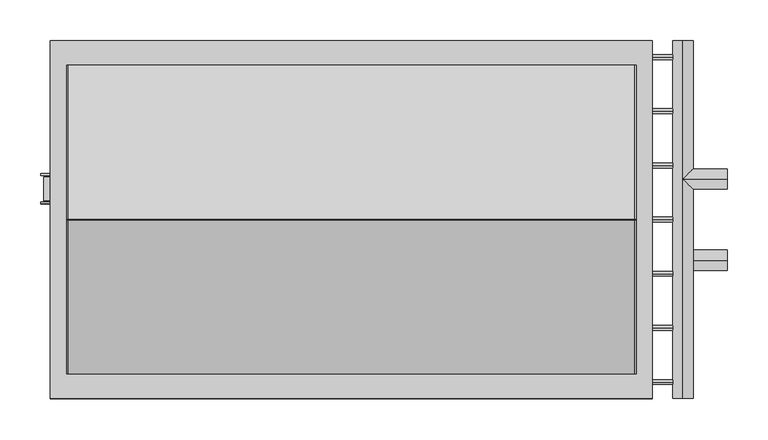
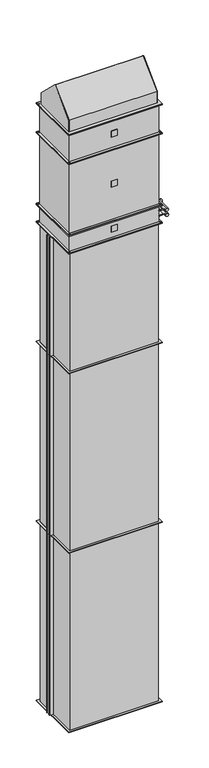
"""IFC4 building model written with IfcOpenShell, lengths in millimetres: proxy geometry, KORF_Завеса_ВодянойНагрев_PWZ_C : PWZ-C 70-40 W2 DM."""

from ifc_helpers import new_model, si_unit, point, frame, frame_2d, origin, origin_with_axes, place, context, project, spatial, polyline, circle_curve, ellipse_curve, trimmed, segment, composite_curve, outline, extrude, source, transform, mapped, element, save
from ifc_brep_helpers import plane_surface, cylinder_surface, advanced_brep


def mechanical_equipment_b2e45c71(model_context):
    return source(origin(), model_context, "Body", "SolidModel", [
        extrude(outline(polyline([(25.0, -205.0), (-25.0, -205.0), (-25.0, -203.0), (25.0, -203.0), (25.0, -205.0)])), frame((0.0, 0.0, 4050.0), z_axis=(0.0, 0.0, 1.0), x_axis=(1.0, 0.0, 0.0)), (0.0, 0.0, 1.0), 50.0),
        extrude(outline(polyline([(370.0, -220.0), (-370.0, -220.0), (-370.0, 220.0), (370.0, 220.0), (370.0, -220.0)]), holes=[polyline([(350.0, -200.0), (350.0, 200.0), (-350.0, 200.0), (-350.0, -200.0), (350.0, -200.0)]), composite_curve([segment(trimmed(circle_curve(frame_2d((-360.0, -210.0)), 4.5), [point((-355.5, -210.0))], [point((-364.5, -210.0))], True, "CARTESIAN"), True, "CONTINUOUS"), segment(trimmed(circle_curve(frame_2d((-360.0, -210.0)), 4.5), [point((-364.5, -210.0))], [point((-355.5, -210.0))], True, "CARTESIAN"), True, "CONTINUOUS")], self_intersect=False), composite_curve([segment(trimmed(circle_curve(frame_2d((360.0, -210.0)), 4.5), [point((364.5, -210.0))], [point((355.5, -210.0))], True, "CARTESIAN"), True, "CONTINUOUS"), segment(trimmed(circle_curve(frame_2d((360.0, -210.0)), 4.5), [point((355.5, -210.0))], [point((364.5, -210.0))], True, "CARTESIAN"), True, "CONTINUOUS")], self_intersect=False), composite_curve([segment(trimmed(circle_curve(frame_2d((360.0, 210.0)), 4.5), [point((364.5, 210.0))], [point((355.5, 210.0))], True, "CARTESIAN"), True, "CONTINUOUS"), segment(trimmed(circle_curve(frame_2d((360.0, 210.0)), 4.5), [point((355.5, 210.0))], [point((364.5, 210.0))], True, "CARTESIAN"), True, "CONTINUOUS")], self_intersect=False), composite_curve([segment(trimmed(circle_curve(frame_2d((-360.0, 210.0)), 4.5), [point((-355.5, 210.0))], [point((-364.5, 210.0))], True, "CARTESIAN"), True, "CONTINUOUS"), segment(trimmed(circle_curve(frame_2d((-360.0, 210.0)), 4.5), [point((-364.5, 210.0))], [point((-355.5, 210.0))], True, "CARTESIAN"), True, "CONTINUOUS")], self_intersect=False)]), frame((0.0, 0.0, 4145.0), z_axis=(0.0, 0.0, 1.0), x_axis=(1.0, 0.0, 0.0)), (0.0, 0.0, 1.0), 5.0),
        extrude(outline(polyline([(370.0, -220.0), (-370.0, -220.0), (-370.0, 220.0), (370.0, 220.0), (370.0, -220.0)]), holes=[polyline([(350.0, -200.0), (350.0, 200.0), (-350.0, 200.0), (-350.0, -200.0), (350.0, -200.0)]), composite_curve([segment(trimmed(circle_curve(frame_2d((-360.0, -210.0)), 4.5), [point((-355.5, -210.0))], [point((-364.5, -210.0))], True, "CARTESIAN"), True, "CONTINUOUS"), segment(trimmed(circle_curve(frame_2d((-360.0, -210.0)), 4.5), [point((-364.5, -210.0))], [point((-355.5, -210.0))], True, "CARTESIAN"), True, "CONTINUOUS")], self_intersect=False), composite_curve([segment(trimmed(circle_curve(frame_2d((360.0, -210.0)), 4.5), [point((364.5, -210.0))], [point((355.5, -210.0))], True, "CARTESIAN"), True, "CONTINUOUS"), segment(trimmed(circle_curve(frame_2d((360.0, -210.0)), 4.5), [point((355.5, -210.0))], [point((364.5, -210.0))], True, "CARTESIAN"), True, "CONTINUOUS")], self_intersect=False), composite_curve([segment(trimmed(circle_curve(frame_2d((360.0, 210.0)), 4.5), [point((364.5, 210.0))], [point((355.5, 210.0))], True, "CARTESIAN"), True, "CONTINUOUS"), segment(trimmed(circle_curve(frame_2d((360.0, 210.0)), 4.5), [point((355.5, 210.0))], [point((364.5, 210.0))], True, "CARTESIAN"), True, "CONTINUOUS")], self_intersect=False), composite_curve([segment(trimmed(circle_curve(frame_2d((-360.0, 210.0)), 4.5), [point((-355.5, 210.0))], [point((-364.5, 210.0))], True, "CARTESIAN"), True, "CONTINUOUS"), segment(trimmed(circle_curve(frame_2d((-360.0, 210.0)), 4.5), [point((-364.5, 210.0))], [point((-355.5, 210.0))], True, "CARTESIAN"), True, "CONTINUOUS")], self_intersect=False)]), frame((0.0, 0.0, 4000.0), z_axis=(0.0, 0.0, 1.0), x_axis=(1.0, 0.0, 0.0)), (0.0, 0.0, 1.0), 5.0),
        extrude(outline(polyline([(353.0, -203.0), (-353.0, -203.0), (-353.0, 203.0), (353.0, 203.0), (353.0, -203.0)])), frame((0.0, 0.0, 4005.0), z_axis=(0.0, 0.0, 1.0), x_axis=(1.0, 0.0, 0.0)), (0.0, 0.0, 1.0), 140.0),
        advanced_brep(
        [(462.0, -50.0, 4041.0), (462.0, -50.0, 4066.0), (407.5, -50.0, 4041.0), (407.5, -50.0, 4066.0), (407.5, -220.0, 4041.0), (407.5, -220.0, 4066.0), (407.5, 220.0, 4041.0), (407.5, 220.0, 4066.0)],
        [
            (0, 1, circle_curve(frame((462.0, -50.0, 4053.5), z_axis=(1.0, 0.0, 0.0), x_axis=(0.0, 0.0, 1.0000000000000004)), 12.5)),
            (1, 0, circle_curve(frame((462.0, -50.0, 4053.5), z_axis=(1.0, 0.0, 0.0), x_axis=(0.0, 0.0, 1.0000000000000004)), 12.5)),
            (0, 2),
            (2, 3, ellipse_curve(frame((407.5, -50.0, 4053.5), z_axis=(0.7071067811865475, -0.7071067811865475, 0.0), x_axis=(0.7071067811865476, 0.7071067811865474, 0.0)), 17.6776695, 12.5)),
            (3, 1),
            (3, 2, ellipse_curve(frame((407.5, -50.0, 4053.5), z_axis=(0.7071067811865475, 0.7071067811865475, 0.0), x_axis=(0.7071067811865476, -0.7071067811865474, 0.0)), 17.6776695, 12.5)),
            (4, 5, circle_curve(frame((407.5, -220.0, 4053.5), z_axis=(0.0, -1.0, 0.0), x_axis=(0.0, 0.0, 1.0000000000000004)), 12.5)),
            (5, 4, circle_curve(frame((407.5, -220.0, 4053.5), z_axis=(0.0, -1.0, 0.0), x_axis=(0.0, 0.0, 1.0000000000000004)), 12.5)),
            (6, 7, circle_curve(frame((407.5, 220.0, 4053.5), z_axis=(0.0, 1.0, 0.0), x_axis=(0.0, 0.0, 1.0000000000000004)), 12.5)),
            (7, 6, circle_curve(frame((407.5, 220.0, 4053.5), z_axis=(0.0, 1.0, 0.0), x_axis=(0.0, 0.0, 1.0000000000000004)), 12.5)),
            (4, 2),
            (3, 5),
            (7, 3),
            (2, 6),
        ],
        [
            plane_surface(frame((462.0, -50.0, 4066.0), z_axis=(1.0, 0.0, 0.0), x_axis=(0.0, -1.0, 0.0))),
            cylinder_surface(frame((407.5, -50.0, 4053.5), z_axis=(1.0000000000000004, 0.0, 0.0), x_axis=(0.0, 0.0, 1.0000000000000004)), 12.5),
            plane_surface(frame((407.5, -220.0, 4066.0), z_axis=(0.0, -1.0, 0.0), x_axis=(-1.0, 0.0, 0.0))),
            plane_surface(frame((407.5, 220.0, 4066.0), z_axis=(0.0, 1.0, 0.0), x_axis=(1.0, 0.0, 0.0))),
            cylinder_surface(frame((407.5, 220.0, 4053.5), z_axis=(0.0, -1.0, 0.0), x_axis=(0.0, 0.0, 1.0000000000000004)), 12.5),
        ],
        [
            (0, [[1, 2]]),
            (1, [[-1, 3, 4, 5]]),
            (1, [[-2, -5, 6, -3]]),
            (2, [[7, 8]]),
            (3, [[9, 10]]),
            (4, [[-7, 11, -6, 12]]),
            (4, [[-10, 13, -4, 14]]),
            (4, [[-8, -12, -13, -9, -14, -11]]),
        ],
    ),
        advanced_brep(
        [(462.0, 50.0, 4084.0), (462.0, 50.0, 4109.0), (407.5, 50.0, 4084.0), (407.5, 50.0, 4109.0), (407.5, -220.0, 4084.0), (407.5, -220.0, 4109.0), (407.5, 220.0, 4084.0), (407.5, 220.0, 4109.0)],
        [
            (0, 1, circle_curve(frame((462.0, 50.0, 4096.5), z_axis=(1.0, 0.0, 0.0), x_axis=(0.0, 0.0, 1.0000000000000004)), 12.5)),
            (1, 0, circle_curve(frame((462.0, 50.0, 4096.5), z_axis=(1.0, 0.0, 0.0), x_axis=(0.0, 0.0, 1.0000000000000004)), 12.5)),
            (0, 2),
            (2, 3, ellipse_curve(frame((407.5, 50.0, 4096.5), z_axis=(0.7071067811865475, -0.7071067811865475, 0.0), x_axis=(0.7071067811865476, 0.7071067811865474, 0.0)), 17.6776695, 12.5)),
            (3, 1),
            (3, 2, ellipse_curve(frame((407.5, 50.0, 4096.5), z_axis=(0.7071067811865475, 0.7071067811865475, 0.0), x_axis=(0.7071067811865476, -0.7071067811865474, 0.0)), 17.6776695, 12.5)),
            (4, 5, circle_curve(frame((407.5, -220.0, 4096.5), z_axis=(0.0, -1.0, 0.0), x_axis=(0.0, 0.0, 1.0000000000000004)), 12.5)),
            (5, 4, circle_curve(frame((407.5, -220.0, 4096.5), z_axis=(0.0, -1.0, 0.0), x_axis=(0.0, 0.0, 1.0000000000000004)), 12.5)),
            (6, 7, circle_curve(frame((407.5, 220.0, 4096.5), z_axis=(0.0, 1.0, 0.0), x_axis=(0.0, 0.0, 1.0000000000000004)), 12.5)),
            (7, 6, circle_curve(frame((407.5, 220.0, 4096.5), z_axis=(0.0, 1.0, 0.0), x_axis=(0.0, 0.0, 1.0000000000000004)), 12.5)),
            (4, 2),
            (3, 5),
            (7, 3),
            (2, 6),
        ],
        [
            plane_surface(frame((462.0, -50.0, 4066.0), z_axis=(1.0, 0.0, 0.0), x_axis=(0.0, -1.0, 0.0))),
            cylinder_surface(frame((0.0, 50.0, 4096.5), z_axis=(1.0000000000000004, 0.0, 0.0), x_axis=(0.0, 0.0, 1.0000000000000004)), 12.5),
            plane_surface(frame((407.5, -220.0, 4066.0), z_axis=(0.0, -1.0, 0.0), x_axis=(-1.0, 0.0, 0.0))),
            plane_surface(frame((407.5, 220.0, 4066.0), z_axis=(0.0, 1.0, 0.0), x_axis=(1.0, 0.0, 0.0))),
            cylinder_surface(frame((407.5, 0.0, 4096.5), z_axis=(0.0, -1.0, 0.0), x_axis=(0.0, 0.0, 1.0000000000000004)), 12.5),
        ],
        [
            (0, [[1, 2]]),
            (1, [[-1, 3, 4, 5]]),
            (1, [[-2, -5, 6, -3]]),
            (2, [[7, 8]]),
            (3, [[9, 10]]),
            (4, [[-7, 11, -6, 12]]),
            (4, [[-10, 13, -4, 14]]),
            (4, [[-8, -12, -13, -9, -14, -11]]),
        ],
    ),
        extrude(outline(composite_curve([segment(trimmed(circle_curve(frame_2d((-200.0, 4053.5)), 3.0), [point((-200.0, 4050.5))], [point((-200.0, 4056.5))], False, "CARTESIAN"), True, "CONTINUOUS"), segment(trimmed(circle_curve(frame_2d((-200.0, 4053.5)), 3.0), [point((-200.0, 4056.5))], [point((-200.0, 4050.5))], False, "CARTESIAN"), True, "CONTINUOUS")], self_intersect=False)), frame((353.0, 0.0, 0.0), z_axis=(1.0, 0.0, 0.0), x_axis=(0.0, 1.0, 0.0)), (0.0, 0.0, 1.0), 54.5),
        extrude(outline(composite_curve([segment(trimmed(circle_curve(frame_2d((-133.3333333, 4053.5)), 3.0), [point((-133.3333333, 4050.5))], [point((-133.3333333, 4056.5))], False, "CARTESIAN"), True, "CONTINUOUS"), segment(trimmed(circle_curve(frame_2d((-133.3333333, 4053.5)), 3.0), [point((-133.3333333, 4056.5))], [point((-133.3333333, 4050.5))], False, "CARTESIAN"), True, "CONTINUOUS")], self_intersect=False)), frame((353.0, 0.0, 0.0), z_axis=(1.0, 0.0, 0.0), x_axis=(0.0, 1.0, 0.0)), (0.0, 0.0, 1.0), 54.5),
        extrude(outline(composite_curve([segment(trimmed(circle_curve(frame_2d((-66.6666667, 4053.5)), 3.0), [point((-66.6666667, 4050.5))], [point((-66.6666667, 4056.5))], False, "CARTESIAN"), True, "CONTINUOUS"), segment(trimmed(circle_curve(frame_2d((-66.6666667, 4053.5)), 3.0), [point((-66.6666667, 4056.5))], [point((-66.6666667, 4050.5))], False, "CARTESIAN"), True, "CONTINUOUS")], self_intersect=False)), frame((353.0, 0.0, 0.0), z_axis=(1.0, 0.0, 0.0), x_axis=(0.0, 1.0, 0.0)), (0.0, 0.0, 1.0), 54.5),
        extrude(outline(composite_curve([segment(trimmed(circle_curve(frame_2d((0.0, 4053.5)), 3.0), [point((0.0, 4050.5))], [point((0.0, 4056.5))], False, "CARTESIAN"), True, "CONTINUOUS"), segment(trimmed(circle_curve(frame_2d((0.0, 4053.5)), 3.0), [point((0.0, 4056.5))], [point((0.0, 4050.5))], False, "CARTESIAN"), True, "CONTINUOUS")], self_intersect=False)), frame((353.0, 0.0, 0.0), z_axis=(1.0, 0.0, 0.0), x_axis=(0.0, 1.0, 0.0)), (0.0, 0.0, 1.0), 54.5),
        extrude(outline(composite_curve([segment(trimmed(circle_curve(frame_2d((66.6666667, 4053.5)), 3.0), [point((66.6666667, 4050.5))], [point((66.6666667, 4056.5))], False, "CARTESIAN"), True, "CONTINUOUS"), segment(trimmed(circle_curve(frame_2d((66.6666667, 4053.5)), 3.0), [point((66.6666667, 4056.5))], [point((66.6666667, 4050.5))], False, "CARTESIAN"), True, "CONTINUOUS")], self_intersect=False)), frame((353.0, 0.0, 0.0), z_axis=(1.0, 0.0, 0.0), x_axis=(0.0, 1.0, 0.0)), (0.0, 0.0, 1.0), 54.5),
        extrude(outline(composite_curve([segment(trimmed(circle_curve(frame_2d((133.3333333, 4053.5)), 3.0), [point((133.3333333, 4050.5))], [point((133.3333333, 4056.5))], False, "CARTESIAN"), True, "CONTINUOUS"), segment(trimmed(circle_curve(frame_2d((133.3333333, 4053.5)), 3.0), [point((133.3333333, 4056.5))], [point((133.3333333, 4050.5))], False, "CARTESIAN"), True, "CONTINUOUS")], self_intersect=False)), frame((353.0, 0.0, 0.0), z_axis=(1.0, 0.0, 0.0), x_axis=(0.0, 1.0, 0.0)), (0.0, 0.0, 1.0), 54.5),
        extrude(outline(composite_curve([segment(trimmed(circle_curve(frame_2d((133.3333333, 4096.5)), 3.0), [point((133.3333333, 4093.5))], [point((133.3333333, 4099.5))], False, "CARTESIAN"), True, "CONTINUOUS"), segment(trimmed(circle_curve(frame_2d((133.3333333, 4096.5)), 3.0), [point((133.3333333, 4099.5))], [point((133.3333333, 4093.5))], False, "CARTESIAN"), True, "CONTINUOUS")], self_intersect=False)), frame((353.0, 0.0, 0.0), z_axis=(1.0, 0.0, 0.0), x_axis=(0.0, 1.0, 0.0)), (0.0, 0.0, 1.0), 54.5),
        extrude(outline(composite_curve([segment(trimmed(circle_curve(frame_2d((66.6666667, 4096.5)), 3.0), [point((66.6666667, 4093.5))], [point((66.6666667, 4099.5))], False, "CARTESIAN"), True, "CONTINUOUS"), segment(trimmed(circle_curve(frame_2d((66.6666667, 4096.5)), 3.0), [point((66.6666667, 4099.5))], [point((66.6666667, 4093.5))], False, "CARTESIAN"), True, "CONTINUOUS")], self_intersect=False)), frame((353.0, 0.0, 0.0), z_axis=(1.0, 0.0, 0.0), x_axis=(0.0, 1.0, 0.0)), (0.0, 0.0, 1.0), 54.5),
        extrude(outline(composite_curve([segment(trimmed(circle_curve(frame_2d((0.0, 4096.5)), 3.0), [point((0.0, 4093.5))], [point((0.0, 4099.5))], False, "CARTESIAN"), True, "CONTINUOUS"), segment(trimmed(circle_curve(frame_2d((0.0, 4096.5)), 3.0), [point((0.0, 4099.5))], [point((0.0, 4093.5))], False, "CARTESIAN"), True, "CONTINUOUS")], self_intersect=False)), frame((353.0, 0.0, 0.0), z_axis=(1.0, 0.0, 0.0), x_axis=(0.0, 1.0, 0.0)), (0.0, 0.0, 1.0), 54.5),
        extrude(outline(composite_curve([segment(trimmed(circle_curve(frame_2d((-66.6666667, 4096.5)), 3.0), [point((-66.6666667, 4093.5))], [point((-66.6666667, 4099.5))], False, "CARTESIAN"), True, "CONTINUOUS"), segment(trimmed(circle_curve(frame_2d((-66.6666667, 4096.5)), 3.0), [point((-66.6666667, 4099.5))], [point((-66.6666667, 4093.5))], False, "CARTESIAN"), True, "CONTINUOUS")], self_intersect=False)), frame((353.0, 0.0, 0.0), z_axis=(1.0, 0.0, 0.0), x_axis=(0.0, 1.0, 0.0)), (0.0, 0.0, 1.0), 54.5),
        extrude(outline(composite_curve([segment(trimmed(circle_curve(frame_2d((-133.3333333, 4096.5)), 3.0), [point((-133.3333333, 4093.5))], [point((-133.3333333, 4099.5))], False, "CARTESIAN"), True, "CONTINUOUS"), segment(trimmed(circle_curve(frame_2d((-133.3333333, 4096.5)), 3.0), [point((-133.3333333, 4099.5))], [point((-133.3333333, 4093.5))], False, "CARTESIAN"), True, "CONTINUOUS")], self_intersect=False)), frame((353.0, 0.0, 0.0), z_axis=(1.0, 0.0, 0.0), x_axis=(0.0, 1.0, 0.0)), (0.0, 0.0, 1.0), 54.5),
        extrude(outline(composite_curve([segment(trimmed(circle_curve(frame_2d((-200.0, 4096.5)), 3.0), [point((-200.0, 4093.5))], [point((-200.0, 4099.5))], False, "CARTESIAN"), True, "CONTINUOUS"), segment(trimmed(circle_curve(frame_2d((-200.0, 4096.5)), 3.0), [point((-200.0, 4099.5))], [point((-200.0, 4093.5))], False, "CARTESIAN"), True, "CONTINUOUS")], self_intersect=False)), frame((353.0, 0.0, 0.0), z_axis=(1.0, 0.0, 0.0), x_axis=(0.0, 1.0, 0.0)), (0.0, 0.0, 1.0), 54.5),
        extrude(outline(composite_curve([segment(trimmed(circle_curve(frame_2d((200.0, 4053.5)), 3.0), [point((200.0, 4050.5))], [point((200.0, 4056.5))], False, "CARTESIAN"), True, "CONTINUOUS"), segment(trimmed(circle_curve(frame_2d((200.0, 4053.5)), 3.0), [point((200.0, 4056.5))], [point((200.0, 4050.5))], False, "CARTESIAN"), True, "CONTINUOUS")], self_intersect=False)), frame((353.0, 0.0, 0.0), z_axis=(1.0, 0.0, 0.0), x_axis=(0.0, 1.0, 0.0)), (0.0, 0.0, 1.0), 54.5),
        extrude(outline(composite_curve([segment(trimmed(circle_curve(frame_2d((200.0, 4096.5)), 3.0), [point((200.0, 4093.5))], [point((200.0, 4099.5))], False, "CARTESIAN"), True, "CONTINUOUS"), segment(trimmed(circle_curve(frame_2d((200.0, 4096.5)), 3.0), [point((200.0, 4099.5))], [point((200.0, 4093.5))], False, "CARTESIAN"), True, "CONTINUOUS")], self_intersect=False)), frame((353.0, 0.0, 0.0), z_axis=(1.0, 0.0, 0.0), x_axis=(0.0, 1.0, 0.0)), (0.0, 0.0, 1.0), 54.5),
        extrude(outline(polyline([(25.0, -205.0), (-25.0, -205.0), (-25.0, -203.0), (25.0, -203.0), (25.0, -205.0)])), frame((0.0, 0.0, 4846.0), z_axis=(0.0, 0.0, 1.0), x_axis=(1.0, 0.0, 0.0)), (0.0, 0.0, 1.0), 50.0),
        extrude(outline(polyline([(-370.0, -220.0), (-370.0, 220.0), (370.0, 220.0), (370.0, -220.0), (-370.0, -220.0)]), holes=[polyline([(-350.0, -200.0), (350.0, -200.0), (350.0, 200.0), (-350.0, 200.0), (-350.0, -200.0)]), composite_curve([segment(trimmed(circle_curve(frame_2d((360.0, -210.0)), 4.5), [point((364.5, -210.0))], [point((355.5, -210.0))], True, "CARTESIAN"), True, "CONTINUOUS"), segment(trimmed(circle_curve(frame_2d((360.0, -210.0)), 4.5), [point((355.5, -210.0))], [point((364.5, -210.0))], True, "CARTESIAN"), True, "CONTINUOUS")], self_intersect=False), composite_curve([segment(trimmed(circle_curve(frame_2d((-360.0, -210.0)), 4.5), [point((-355.5, -210.0))], [point((-364.5, -210.0))], True, "CARTESIAN"), True, "CONTINUOUS"), segment(trimmed(circle_curve(frame_2d((-360.0, -210.0)), 4.5), [point((-364.5, -210.0))], [point((-355.5, -210.0))], True, "CARTESIAN"), True, "CONTINUOUS")], self_intersect=False), composite_curve([segment(trimmed(circle_curve(frame_2d((-360.0, 210.0)), 4.5), [point((-355.5, 210.0))], [point((-364.5, 210.0))], True, "CARTESIAN"), True, "CONTINUOUS"), segment(trimmed(circle_curve(frame_2d((-360.0, 210.0)), 4.5), [point((-364.5, 210.0))], [point((-355.5, 210.0))], True, "CARTESIAN"), True, "CONTINUOUS")], self_intersect=False), composite_curve([segment(trimmed(circle_curve(frame_2d((360.0, 210.0)), 4.5), [point((364.5, 210.0))], [point((355.5, 210.0))], True, "CARTESIAN"), True, "CONTINUOUS"), segment(trimmed(circle_curve(frame_2d((360.0, 210.0)), 4.5), [point((355.5, 210.0))], [point((364.5, 210.0))], True, "CARTESIAN"), True, "CONTINUOUS")], self_intersect=False)]), frame((0.0, 0.0, 4750.0), z_axis=(0.0, 0.0, 1.0), x_axis=(1.0, 0.0, 0.0)), (0.0, 0.0, 1.0), 5.0),
        extrude(outline(polyline([(-370.0, -220.0), (-370.0, 220.0), (370.0, 220.0), (370.0, -220.0), (-370.0, -220.0)]), holes=[polyline([(-350.0, -200.0), (350.0, -200.0), (350.0, 200.0), (-350.0, 200.0), (-350.0, -200.0)]), composite_curve([segment(trimmed(circle_curve(frame_2d((360.0, -210.0)), 4.5), [point((364.5, -210.0))], [point((355.5, -210.0))], True, "CARTESIAN"), True, "CONTINUOUS"), segment(trimmed(circle_curve(frame_2d((360.0, -210.0)), 4.5), [point((355.5, -210.0))], [point((364.5, -210.0))], True, "CARTESIAN"), True, "CONTINUOUS")], self_intersect=False), composite_curve([segment(trimmed(circle_curve(frame_2d((-360.0, -210.0)), 4.5), [point((-355.5, -210.0))], [point((-364.5, -210.0))], True, "CARTESIAN"), True, "CONTINUOUS"), segment(trimmed(circle_curve(frame_2d((-360.0, -210.0)), 4.5), [point((-364.5, -210.0))], [point((-355.5, -210.0))], True, "CARTESIAN"), True, "CONTINUOUS")], self_intersect=False), composite_curve([segment(trimmed(circle_curve(frame_2d((-360.0, 210.0)), 4.5), [point((-355.5, 210.0))], [point((-364.5, 210.0))], True, "CARTESIAN"), True, "CONTINUOUS"), segment(trimmed(circle_curve(frame_2d((-360.0, 210.0)), 4.5), [point((-364.5, 210.0))], [point((-355.5, 210.0))], True, "CARTESIAN"), True, "CONTINUOUS")], self_intersect=False), composite_curve([segment(trimmed(circle_curve(frame_2d((360.0, 210.0)), 4.5), [point((364.5, 210.0))], [point((355.5, 210.0))], True, "CARTESIAN"), True, "CONTINUOUS"), segment(trimmed(circle_curve(frame_2d((360.0, 210.0)), 4.5), [point((355.5, 210.0))], [point((364.5, 210.0))], True, "CARTESIAN"), True, "CONTINUOUS")], self_intersect=False)]), frame((0.0, 0.0, 4987.0), z_axis=(0.0, 0.0, 1.0), x_axis=(1.0, 0.0, 0.0)), (0.0, 0.0, 1.0), 5.0),
        extrude(outline(polyline([(-353.0, -203.0), (-353.0, 203.0), (353.0, 203.0), (353.0, -203.0), (-353.0, -203.0)])), frame((0.0, 0.0, 4755.0), z_axis=(0.0, 0.0, 1.0), x_axis=(1.0, 0.0, 0.0)), (0.0, 0.0, 1.0), 232.0),
        extrude(outline(polyline([(25.0, -205.0), (-25.0, -205.0), (-25.0, -203.0), (25.0, -203.0), (25.0, -205.0)])), frame((0.0, 0.0, 4425.0), z_axis=(0.0, 0.0, 1.0), x_axis=(1.0, 0.0, 0.0)), (0.0, 0.0, 1.0), 50.0),
        extrude(outline(polyline([(370.0, -220.0), (-370.0, -220.0), (-370.0, 220.0), (370.0, 220.0), (370.0, -220.0)]), holes=[polyline([(350.0, -200.0), (350.0, 200.0), (-350.0, 200.0), (-350.0, -200.0), (350.0, -200.0)]), composite_curve([segment(trimmed(circle_curve(frame_2d((-360.0, -210.0)), 4.5), [point((-355.5, -210.0))], [point((-364.5, -210.0))], True, "CARTESIAN"), True, "CONTINUOUS"), segment(trimmed(circle_curve(frame_2d((-360.0, -210.0)), 4.5), [point((-364.5, -210.0))], [point((-355.5, -210.0))], True, "CARTESIAN"), True, "CONTINUOUS")], self_intersect=False), composite_curve([segment(trimmed(circle_curve(frame_2d((360.0, -210.0)), 4.5), [point((364.5, -210.0))], [point((355.5, -210.0))], True, "CARTESIAN"), True, "CONTINUOUS"), segment(trimmed(circle_curve(frame_2d((360.0, -210.0)), 4.5), [point((355.5, -210.0))], [point((364.5, -210.0))], True, "CARTESIAN"), True, "CONTINUOUS")], self_intersect=False), composite_curve([segment(trimmed(circle_curve(frame_2d((360.0, 210.0)), 4.5), [point((364.5, 210.0))], [point((355.5, 210.0))], True, "CARTESIAN"), True, "CONTINUOUS"), segment(trimmed(circle_curve(frame_2d((360.0, 210.0)), 4.5), [point((355.5, 210.0))], [point((364.5, 210.0))], True, "CARTESIAN"), True, "CONTINUOUS")], self_intersect=False), composite_curve([segment(trimmed(circle_curve(frame_2d((-360.0, 210.0)), 4.5), [point((-355.5, 210.0))], [point((-364.5, 210.0))], True, "CARTESIAN"), True, "CONTINUOUS"), segment(trimmed(circle_curve(frame_2d((-360.0, 210.0)), 4.5), [point((-364.5, 210.0))], [point((-355.5, 210.0))], True, "CARTESIAN"), True, "CONTINUOUS")], self_intersect=False)]), frame((0.0, 0.0, 4745.0), z_axis=(0.0, 0.0, 1.0), x_axis=(1.0, 0.0, 0.0)), (0.0, 0.0, 1.0), 5.0),
        extrude(outline(polyline([(370.0, -220.0), (-370.0, -220.0), (-370.0, 220.0), (370.0, 220.0), (370.0, -220.0)]), holes=[polyline([(350.0, -200.0), (350.0, 200.0), (-350.0, 200.0), (-350.0, -200.0), (350.0, -200.0)]), composite_curve([segment(trimmed(circle_curve(frame_2d((-360.0, -210.0)), 4.5), [point((-355.5, -210.0))], [point((-364.5, -210.0))], True, "CARTESIAN"), True, "CONTINUOUS"), segment(trimmed(circle_curve(frame_2d((-360.0, -210.0)), 4.5), [point((-364.5, -210.0))], [point((-355.5, -210.0))], True, "CARTESIAN"), True, "CONTINUOUS")], self_intersect=False), composite_curve([segment(trimmed(circle_curve(frame_2d((360.0, -210.0)), 4.5), [point((364.5, -210.0))], [point((355.5, -210.0))], True, "CARTESIAN"), True, "CONTINUOUS"), segment(trimmed(circle_curve(frame_2d((360.0, -210.0)), 4.5), [point((355.5, -210.0))], [point((364.5, -210.0))], True, "CARTESIAN"), True, "CONTINUOUS")], self_intersect=False), composite_curve([segment(trimmed(circle_curve(frame_2d((360.0, 210.0)), 4.5), [point((364.5, 210.0))], [point((355.5, 210.0))], True, "CARTESIAN"), True, "CONTINUOUS"), segment(trimmed(circle_curve(frame_2d((360.0, 210.0)), 4.5), [point((355.5, 210.0))], [point((364.5, 210.0))], True, "CARTESIAN"), True, "CONTINUOUS")], self_intersect=False), composite_curve([segment(trimmed(circle_curve(frame_2d((-360.0, 210.0)), 4.5), [point((-355.5, 210.0))], [point((-364.5, 210.0))], True, "CARTESIAN"), True, "CONTINUOUS"), segment(trimmed(circle_curve(frame_2d((-360.0, 210.0)), 4.5), [point((-364.5, 210.0))], [point((-355.5, 210.0))], True, "CARTESIAN"), True, "CONTINUOUS")], self_intersect=False)]), frame((0.0, 0.0, 4150.0), z_axis=(0.0, 0.0, 1.0), x_axis=(1.0, 0.0, 0.0)), (0.0, 0.0, 1.0), 5.0),
        extrude(outline(polyline([(353.0, -203.0), (-353.0, -203.0), (-353.0, 203.0), (353.0, 203.0), (353.0, -203.0)])), frame((0.0, 0.0, 4155.0), z_axis=(0.0, 0.0, 1.0), x_axis=(1.0, 0.0, 0.0)), (0.0, 0.0, 1.0), 590.0),
        extrude(outline(polyline([(350.0, 200.0), (350.0, -200.0), (-350.0, -200.0), (-350.0, 200.0), (350.0, 200.0)])), frame((0.0, 0.0, 3000.0), z_axis=(0.0, 0.0, 1.0), x_axis=(1.0, 0.0, 0.0)), (0.0, 0.0, 1.0), 1000.0),
        extrude(outline(polyline([(-378.0, 52.5), (-350.0, 52.5), (-350.0, 23.5), (-378.0, 23.5), (-378.0, 52.5)])), frame((0.0, 0.0, 3002.0), z_axis=(0.0, 0.0, 1.0), x_axis=(1.0, 0.0, 0.0)), (0.0, 0.0, 1.0), 996.0),
        extrude(outline(polyline([(-382.0, 56.5), (-350.0, 56.5), (-350.0, 54.5), (-382.0, 54.5), (-382.0, 56.5)])), frame((0.0, 0.0, 3002.0), z_axis=(0.0, 0.0, 1.0), x_axis=(1.0, 0.0, 0.0)), (0.0, 0.0, 1.0), 996.0),
        extrude(outline(polyline([(-382.0, 19.5), (-382.0, 21.5), (-350.0, 21.5), (-350.0, 19.5), (-382.0, 19.5)])), frame((0.0, 0.0, 3002.0), z_axis=(0.0, 0.0, 1.0), x_axis=(1.0, 0.0, 0.0)), (0.0, 0.0, 1.0), 996.0),
        extrude(outline(polyline([(370.0, 220.0), (370.0, -220.0), (-370.0, -220.0), (-370.0, 220.0), (370.0, 220.0)]), holes=[polyline([(350.0, 200.0), (-350.0, 200.0), (-350.0, -200.0), (350.0, -200.0), (350.0, 200.0)])]), frame((0.0, 0.0, 3998.0), z_axis=(0.0, 0.0, 1.0), x_axis=(1.0, 0.0, 0.0)), (0.0, 0.0, 1.0), 2.0),
        extrude(outline(polyline([(370.0, 220.0), (370.0, -220.0), (-370.0, -220.0), (-370.0, 220.0), (370.0, 220.0)]), holes=[polyline([(350.0, 200.0), (-350.0, 200.0), (-350.0, -200.0), (350.0, -200.0), (350.0, 200.0)])]), frame((0.0, 0.0, 3000.0), z_axis=(0.0, 0.0, 1.0), x_axis=(1.0, 0.0, 0.0)), (0.0, 0.0, 1.0), 2.0),
        extrude(outline(polyline([(350.0, 200.0), (350.0, -200.0), (-350.0, -200.0), (-350.0, 200.0), (350.0, 200.0)])), frame((0.0, 0.0, 1500.0), z_axis=(0.0, 0.0, 1.0), x_axis=(1.0, 0.0, 0.0)), (0.0, 0.0, 1.0), 1500.0),
        extrude(outline(polyline([(-378.0, 52.5), (-350.0, 52.5), (-350.0, 23.5), (-378.0, 23.5), (-378.0, 52.5)])), frame((0.0, 0.0, 1502.0), z_axis=(0.0, 0.0, 1.0), x_axis=(1.0, 0.0, 0.0)), (0.0, 0.0, 1.0), 1496.0),
        extrude(outline(polyline([(-382.0, 56.5), (-350.0, 56.5), (-350.0, 54.5), (-382.0, 54.5), (-382.0, 56.5)])), frame((0.0, 0.0, 1502.0), z_axis=(0.0, 0.0, 1.0), x_axis=(1.0, 0.0, 0.0)), (0.0, 0.0, 1.0), 1496.0),
        extrude(outline(polyline([(-382.0, 19.5), (-382.0, 21.5), (-350.0, 21.5), (-350.0, 19.5), (-382.0, 19.5)])), frame((0.0, 0.0, 1502.0), z_axis=(0.0, 0.0, 1.0), x_axis=(1.0, 0.0, 0.0)), (0.0, 0.0, 1.0), 1496.0),
        extrude(outline(polyline([(370.0, 220.0), (370.0, -220.0), (-370.0, -220.0), (-370.0, 220.0), (370.0, 220.0)]), holes=[polyline([(350.0, 200.0), (-350.0, 200.0), (-350.0, -200.0), (350.0, -200.0), (350.0, 200.0)])]), frame((0.0, 0.0, 2998.0), z_axis=(0.0, 0.0, 1.0), x_axis=(1.0, 0.0, 0.0)), (0.0, 0.0, 1.0), 2.0),
        extrude(outline(polyline([(370.0, 220.0), (370.0, -220.0), (-370.0, -220.0), (-370.0, 220.0), (370.0, 220.0)]), holes=[polyline([(350.0, 200.0), (-350.0, 200.0), (-350.0, -200.0), (350.0, -200.0), (350.0, 200.0)])]), frame((0.0, 0.0, 1500.0), z_axis=(0.0, 0.0, 1.0), x_axis=(1.0, 0.0, 0.0)), (0.0, 0.0, 1.0), 2.0),
        extrude(outline(polyline([(350.0, 200.0), (350.0, -200.0), (-350.0, -200.0), (-350.0, 200.0), (350.0, 200.0)])), origin_with_axes(), (0.0, 0.0, 1.0), 1500.0),
        extrude(outline(polyline([(-378.0, 52.5), (-350.0, 52.5), (-350.0, 23.5), (-378.0, 23.5), (-378.0, 52.5)])), frame((0.0, 0.0, 2.0), z_axis=(0.0, 0.0, 1.0), x_axis=(1.0, 0.0, 0.0)), (0.0, 0.0, 1.0), 1496.0),
        extrude(outline(polyline([(-382.0, 56.5), (-350.0, 56.5), (-350.0, 54.5), (-382.0, 54.5), (-382.0, 56.5)])), frame((0.0, 0.0, 2.0), z_axis=(0.0, 0.0, 1.0), x_axis=(1.0, 0.0, 0.0)), (0.0, 0.0, 1.0), 1496.0),
        extrude(outline(polyline([(-382.0, 19.5), (-382.0, 21.5), (-350.0, 21.5), (-350.0, 19.5), (-382.0, 19.5)])), frame((0.0, 0.0, 2.0), z_axis=(0.0, 0.0, 1.0), x_axis=(1.0, 0.0, 0.0)), (0.0, 0.0, 1.0), 1496.0),
        extrude(outline(polyline([(370.0, 220.0), (370.0, -220.0), (-370.0, -220.0), (-370.0, 220.0), (370.0, 220.0)]), holes=[polyline([(350.0, 200.0), (-350.0, 200.0), (-350.0, -200.0), (350.0, -200.0), (350.0, 200.0)])]), frame((0.0, 0.0, 1498.0), z_axis=(0.0, 0.0, 1.0), x_axis=(1.0, 0.0, 0.0)), (0.0, 0.0, 1.0), 2.0),
        extrude(outline(polyline([(370.0, 220.0), (370.0, -220.0), (-370.0, -220.0), (-370.0, 220.0), (370.0, 220.0)]), holes=[polyline([(350.0, 200.0), (-350.0, 200.0), (-350.0, -200.0), (350.0, -200.0), (350.0, 200.0)])]), origin_with_axes(), (0.0, 0.0, 1.0), 2.0),
        extrude(outline(composite_curve([segment(polyline([(190.0, 5089.1428571), (190.0, 4994.0), (-190.0, 4994.0), (-190.0, 5089.1428571), (-0.6395979, 5271.3786763)]), True, "CONTINUOUS"), segment(trimmed(circle_curve(frame_2d((0.0, 5270.7202668)), 0.9179263), [point((-0.6395979, 5271.3786763))], [point((0.6395979, 5271.3786763))], False, "CARTESIAN"), True, "CONTINUOUS"), segment(polyline([(0.6395979, 5271.3786763), (190.0, 5089.1428571)]), True, "CONTINUOUS")], self_intersect=False)), frame((348.0, 0.0, 0.0), z_axis=(1.0, 0.0, 0.0), x_axis=(0.0, 1.0, 0.0)), (0.0, 0.0, 1.0), 2.0),
        extrude(outline(composite_curve([segment(polyline([(190.0, 5089.1428571), (190.0, 4994.0), (-190.0, 4994.0), (-190.0, 5089.1428571), (-0.6395979, 5271.3786763)]), True, "CONTINUOUS"), segment(trimmed(circle_curve(frame_2d((0.0, 5270.7202668)), 0.9179263), [point((-0.6395979, 5271.3786763))], [point((0.6395979, 5271.3786763))], False, "CARTESIAN"), True, "CONTINUOUS"), segment(polyline([(0.6395979, 5271.3786763), (190.0, 5089.1428571)]), True, "CONTINUOUS")], self_intersect=False)), frame((-348.0, 0.0, 0.0), z_axis=(1.0, 0.0, 0.0), x_axis=(0.0, 1.0, 0.0)), (0.0, 0.0, 1.0), 696.0),
        extrude(outline(composite_curve([segment(polyline([(190.0, 5089.1428571), (190.0, 4994.0), (-190.0, 4994.0), (-190.0, 5089.1428571), (-0.6395979, 5271.3786763)]), True, "CONTINUOUS"), segment(trimmed(circle_curve(frame_2d((0.0, 5270.7202668)), 0.9179263), [point((-0.6395979, 5271.3786763))], [point((0.6395979, 5271.3786763))], False, "CARTESIAN"), True, "CONTINUOUS"), segment(polyline([(0.6395979, 5271.3786763), (190.0, 5089.1428571)]), True, "CONTINUOUS")], self_intersect=False)), frame((-350.0, 0.0, 0.0), z_axis=(1.0, 0.0, 0.0), x_axis=(0.0, 1.0, 0.0)), (0.0, 0.0, 1.0), 2.0),
        extrude(outline(polyline([(370.0, 220.0), (370.0, -220.0), (-370.0, -220.0), (-370.0, 220.0), (370.0, 220.0)]), holes=[polyline([(-350.0, 190.0), (-350.0, -190.0), (350.0, -190.0), (350.0, 190.0), (-350.0, 190.0)])]), frame((0.0, 0.0, 4992.0), z_axis=(0.0, 0.0, 1.0), x_axis=(1.0, 0.0, 0.0)), (0.0, 0.0, 1.0), 2.0),
    ])


if __name__ == "__main__":
    model = new_model("IFC4")
    model_context = context("Model", 3, world=origin())
    ifc_project = project(units=[si_unit("LENGTHUNIT", "METRE", prefix="MILLI")], contexts=[model_context])
    site = spatial("IfcSite", under=ifc_project)
    building = spatial("IfcBuilding", under=site)
    placement = place(None, origin())
    mechanical_equipment_shape = mechanical_equipment_b2e45c71(model_context)
    element("IfcBuildingElementProxy", 1, Name="KORF_Завеса_ВодянойНагрев_PWZ_C : PWZ-C 70-40 W2 DM", ObjectType="KORF_Завеса_ВодянойНагрев_PWZ_C : PWZ-C 70-40 W2 DM", at=placement, inside=building, context=model_context, shape_type="MappedRepresentation", body=[
        mapped(mechanical_equipment_shape, transform((0.0, 0.0, 0.0), x_axis=(1.0, 0.0, 0.0), y_axis=(0.0, 1.0, 0.0), z_axis=(0.0, 0.0, 1.0))),
    ])
    save(model, "model.ifc")
